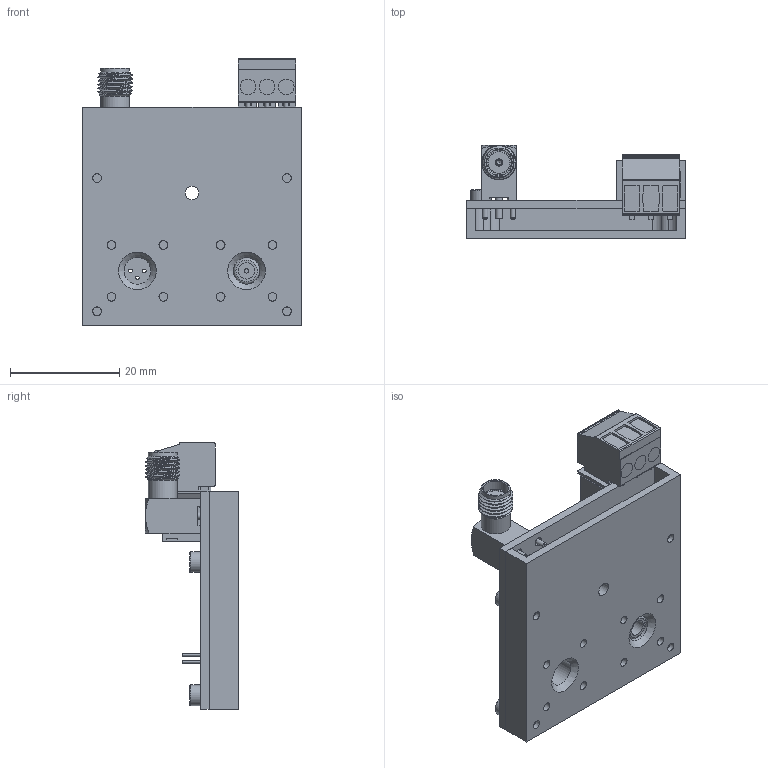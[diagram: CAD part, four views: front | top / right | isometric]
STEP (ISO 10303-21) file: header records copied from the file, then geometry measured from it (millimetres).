
FILE_DESCRIPTION(/* description */ ('STEP AP214'),/* implementation_level */ '2;1');
FILE_NAME(/* name */ '60f7e50506be774e00eb47f6',/* time_stamp */ '2021-07-21T09:12:39+00:00',/* author */ (''),/* organization */ (''),/* preprocessor_version */ 'ST-DEVELOPER v18.1',/* originating_system */ ' ',/* authorisation */ ' ');
FILE_SCHEMA (('AUTOMOTIVE_DESIGN {1 0 10303 214 3 1 1}'));
Length unit declared in the file: metre
Products named in the file (20): PDX10S-5-DC-SI_ASSEMBLY; 733910083; Hex socket head cap screw M2x0.40 x 6; Open CASCADE STEP translator 6.8 2.1.1; TO-18-3pins; Part 1; 284512+284506-3 <1>; body; pin; screw
Assembly tree (22 placements, depth 3):
  PDX10S-5-DC-SI_ASSEMBLY
    733910083
    Hex socket head cap screw M2x0.40 x 6  x4
    Open CASCADE STEP translator 6.8 2.1.1
    TO-18-3pins
    Part 1
    733910083
    733910083
    284512+284506-3 <1>
      body
      body
      pin
      screw
      screw
      pin
      pin
      pin
      pin
      screw
      pin
Bounding box: 40 x 17.06 x 48.9 mm (x, y, z)
Volume: 8986.9 mm3; surface area: 12640.6 mm2
Topology: 21 solids, 21 shells, 852 faces, 2110 edges, 1347 vertices
Faces by surface type: plane 469, cylinder 286, cone 48, torus 29, sphere 18, bspline 2
Full cylindrical faces by diameter (mm): 0.457 x3, 0.65 x6, 0.8 x1, 0.97 x1, 1 x4, 1.2 x9, 1.27 x1, 1.28 x1, 1.32 x2, 1.5 x1, 1.6 x16, 2 x7, 2.4 x4, 2.5 x4, 2.8 x3, 2.9 x6, 3 x1, 3.5 x1, 3.8 x4, 3.98 x1, 4.06 x3, 4.6 x1, 4.7 x1, 4.9 x2, 5.3 x2
Entity records: 24785 total; most frequent: CARTESIAN_POINT 5869, DIRECTION 3919, ORIENTED_EDGE 3556, EDGE_CURVE 1778, AXIS2_PLACEMENT_3D 1403, VERTEX_POINT 1203, LINE 1113, VECTOR 1113
